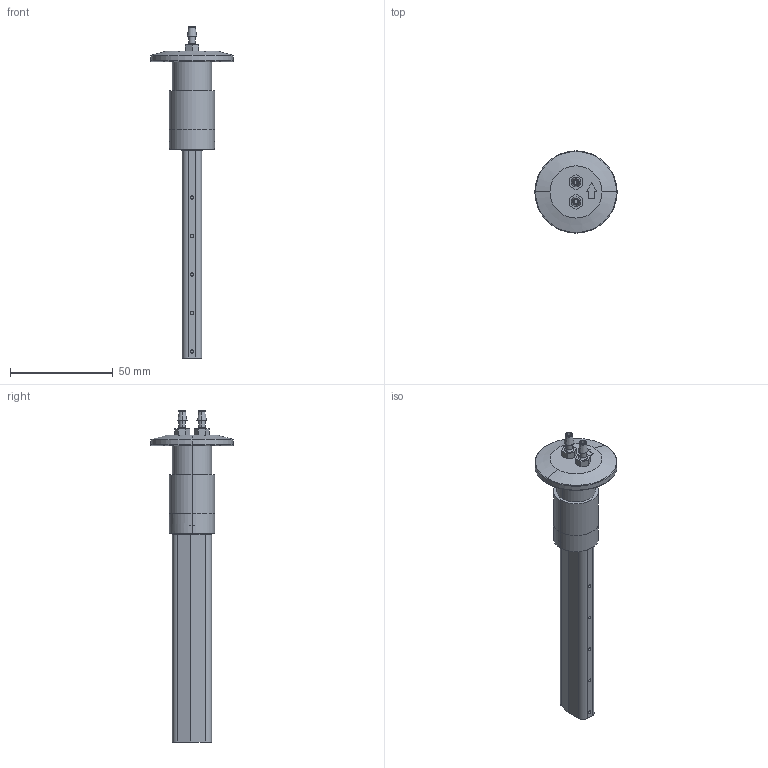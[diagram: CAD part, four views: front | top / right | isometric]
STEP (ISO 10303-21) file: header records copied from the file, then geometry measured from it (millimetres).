
FILE_DESCRIPTION (( 'STEP AP214' ), '1' );
FILE_NAME ('VELOCITY 4.0 IN NW25 FLANGE.STEP', '2026-03-04T13:15:58', ( '' ), ( '' ), 'SwSTEP 2.0', 'SolidWorks 2012', '' );
FILE_SCHEMA (( 'AUTOMOTIVE_DESIGN' ));
Length unit declared in the file: inch
Products named in the file (1): VELOCITY 4.0 IN NW25 FLANGE
Bounding box: 40.01 x 40.01 x 161.57 mm (x, y, z)
Surface area: 12715.2 mm2 (no closed solid volume)
Topology: 0 solids, 9 shells, 141 faces, 402 edges, 271 vertices
Faces by surface type: cylinder 58, plane 58, torus 15, cone 10
Entity records: 6767 total; most frequent: CARTESIAN_POINT 1227, DIRECTION 791, ORIENTED_EDGE 684, EDGE_CURVE 402, AXIS2_PLACEMENT_3D 289, VERTEX_POINT 271, LINE 213, VECTOR 213
